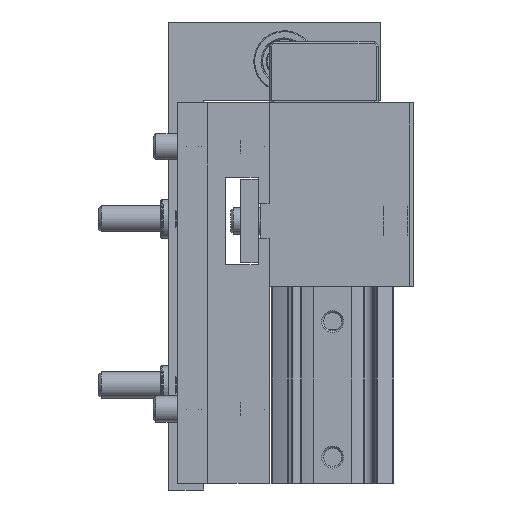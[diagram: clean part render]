
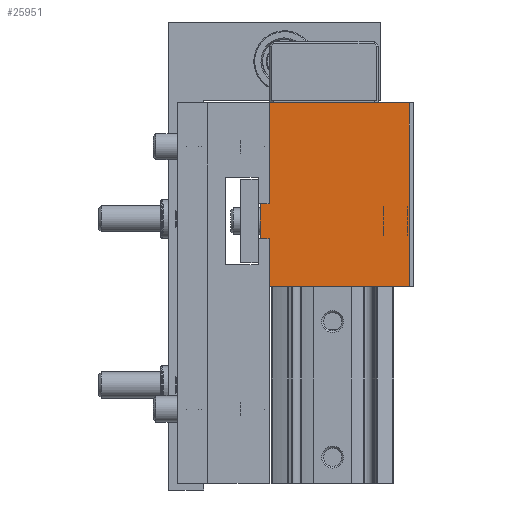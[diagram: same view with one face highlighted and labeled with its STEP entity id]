
A CAD part, left-side view. The second image highlights one B-rep face of the part: STEP entity #25951.
In plain terms, the highlighted planar face has unit normal (-1, 0, 0).
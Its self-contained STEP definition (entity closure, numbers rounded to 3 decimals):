
#21788=CARTESIAN_POINT('',(-20.,-16.5,-21.0));
#21789=VERTEX_POINT('',#21788);
#21796=CARTESIAN_POINT('',(-20.,15.5,-21.0));
#21797=VERTEX_POINT('',#21796);
#21798=CARTESIAN_POINT('',(-20.,-16.5,-21.0));
#21799=DIRECTION('',(0.0,1.0,0.0));
#21800=VECTOR('',#21799,32.);
#21801=LINE('',#21798,#21800);
#21802=EDGE_CURVE('',#21789,#21797,#21801,.T.);
#25859=CARTESIAN_POINT('',(-20.,15.5,21.0));
#25860=VERTEX_POINT('',#25859);
#25867=CARTESIAN_POINT('',(-20.,-16.5,21.0));
#25868=VERTEX_POINT('',#25867);
#25869=CARTESIAN_POINT('',(-20.,-16.5,21.0));
#25870=DIRECTION('',(0.0,1.0,0.0));
#25871=VECTOR('',#25870,32.);
#25872=LINE('',#25869,#25871);
#25873=EDGE_CURVE('',#25868,#25860,#25872,.T.);
#25891=CARTESIAN_POINT('',(-20.,-16.5,21.0));
#25892=DIRECTION('',(0.0,0.0,-1.0));
#25893=VECTOR('',#25892,42.0);
#25894=LINE('',#25891,#25893);
#25895=EDGE_CURVE('',#25868,#21789,#25894,.T.);
#25903=CARTESIAN_POINT('',(-20.,-17.5,-21.0));
#25904=DIRECTION('',(-1.0,0.0,0.0));
#25905=DIRECTION('',(0.0,0.0,1.0));
#25906=AXIS2_PLACEMENT_3D('',#25903,#25904,#25905);
#25907=PLANE('',#25906);
#25908=ORIENTED_EDGE('',*,*,#25895,.F.);
#25909=ORIENTED_EDGE('',*,*,#25873,.T.);
#25910=CARTESIAN_POINT('',(-20.0,15.5,-2.));
#25911=VERTEX_POINT('',#25910);
#25912=CARTESIAN_POINT('',(-20.,15.5,21.0));
#25913=DIRECTION('',(0.0,0.0,-1.0));
#25914=VECTOR('',#25913,23.0);
#25915=LINE('',#25912,#25914);
#25916=EDGE_CURVE('',#25860,#25911,#25915,.T.);
#25917=ORIENTED_EDGE('',*,*,#25916,.T.);
#25918=CARTESIAN_POINT('',(-20.0,17.5,-2.));
#25919=VERTEX_POINT('',#25918);
#25920=CARTESIAN_POINT('',(-20.0,15.5,-2.));
#25921=DIRECTION('',(0.0,1.0,0.0));
#25922=VECTOR('',#25921,2.);
#25923=LINE('',#25920,#25922);
#25924=EDGE_CURVE('',#25911,#25919,#25923,.T.);
#25925=ORIENTED_EDGE('',*,*,#25924,.T.);
#25926=CARTESIAN_POINT('',(-20.,17.5,-10.));
#25927=VERTEX_POINT('',#25926);
#25928=CARTESIAN_POINT('',(-20.,17.5,-10.));
#25929=DIRECTION('',(0.0,0.0,1.0));
#25930=VECTOR('',#25929,8.);
#25931=LINE('',#25928,#25930);
#25932=EDGE_CURVE('',#25927,#25919,#25931,.T.);
#25933=ORIENTED_EDGE('',*,*,#25932,.F.);
#25934=CARTESIAN_POINT('',(-20.,15.5,-10.));
#25935=VERTEX_POINT('',#25934);
#25936=CARTESIAN_POINT('',(-20.,17.5,-10.));
#25937=DIRECTION('',(0.0,-1.0,0.0));
#25938=VECTOR('',#25937,2.);
#25939=LINE('',#25936,#25938);
#25940=EDGE_CURVE('',#25927,#25935,#25939,.T.);
#25941=ORIENTED_EDGE('',*,*,#25940,.T.);
#25942=CARTESIAN_POINT('',(-20.,15.5,-10.));
#25943=DIRECTION('',(0.0,0.0,-1.0));
#25944=VECTOR('',#25943,11.);
#25945=LINE('',#25942,#25944);
#25946=EDGE_CURVE('',#25935,#21797,#25945,.T.);
#25947=ORIENTED_EDGE('',*,*,#25946,.T.);
#25948=ORIENTED_EDGE('',*,*,#21802,.F.);
#25949=EDGE_LOOP('',(#25908,#25909,#25917,#25925,#25933,#25941,#25947,#25948));
#25950=FACE_OUTER_BOUND('',#25949,.T.);
#25951=ADVANCED_FACE('',(#25950),#25907,.T.);
